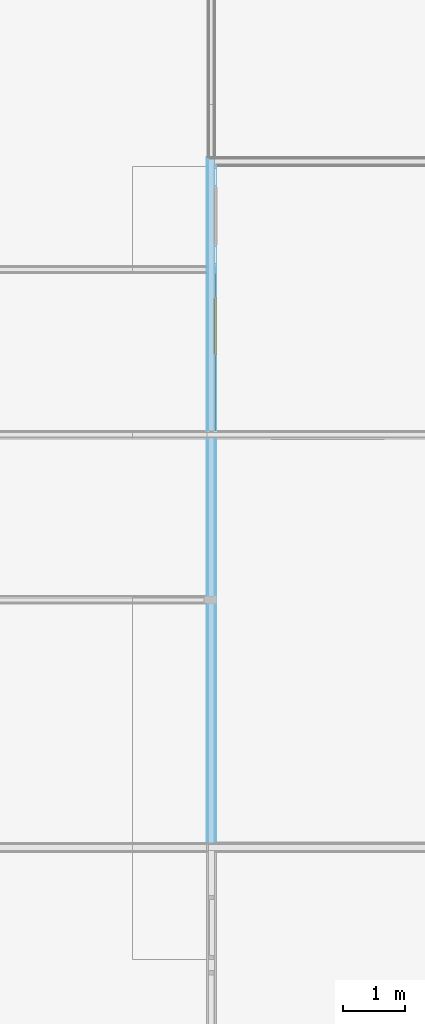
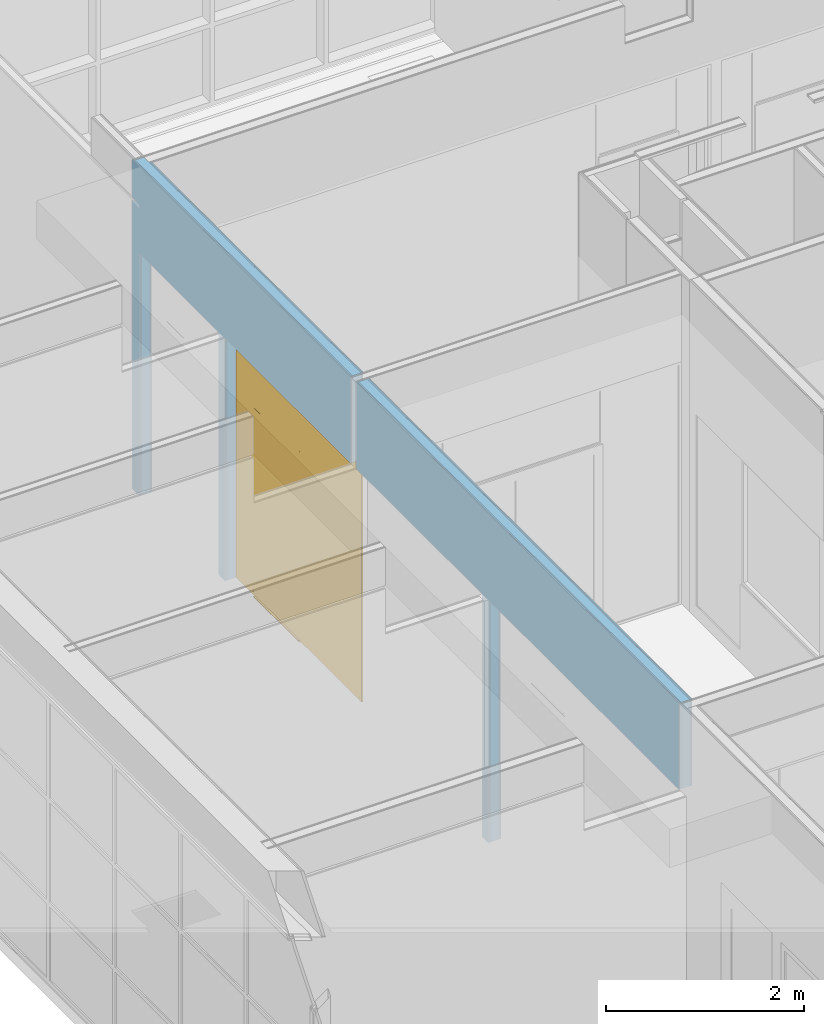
# One storey, part 39 of 109: 1 door, 4 openings, 1 element without a shape of its own, plus 5 elements that do not belong to this part.
"""IFC2X3 building model written with IfcOpenShell, lengths in millimetres."""

import ifcopenshell
import ifcopenshell.guid

model = None  # the IFC model being written
_history = None  # IfcOwnerHistory: only IFC2X3 demands one
_inside = {}  # id of a spatial element -> (the spatial element, [elements in it])
_under = {}  # id of a project, library or spatial element -> (it, [spatial elements below it])
_declared = {}  # id of a project -> (the project, [libraries it declares])
_typed = {}  # id of a type object -> (the type object, [elements of that type])
_made_of = {}  # id of a material, layer set ... -> (it, [elements and type objects made of it])


def new_model(schema):
    """Start an empty IFC model of exactly this schema.

    Asked for "IFC4X3", IfcOpenShell would pick the latest addendum, in which some entities
    have other attributes; the version numbers below select the first issue.
    IFC2X3 requires an IfcOwnerHistory on every rooted entity: one is made here for all.
    """
    global model, _history
    if schema == "IFC4X3":
        model = ifcopenshell.file(schema_version=(4, 3, 0, 0))
    else:
        model = ifcopenshell.file(schema=schema)
    _inside.clear()
    _under.clear()
    _declared.clear()
    _typed.clear()
    _made_of.clear()
    _history = None
    if model.schema == "IFC2X3":
        org = make("IfcOrganization", Name="unknown")
        user = make(
            "IfcPersonAndOrganization",
            ThePerson=make("IfcPerson", FamilyName="unknown"),
            TheOrganization=org,
        )
        app = make(
            "IfcApplication",
            ApplicationDeveloper=org,
            Version="unknown",
            ApplicationFullName="unknown",
            ApplicationIdentifier="unknown",
        )
        _history = make(
            "IfcOwnerHistory",
            OwningUser=user,
            OwningApplication=app,
            ChangeAction="ADDED",
            CreationDate=0,
        )
    return model


def make(cls, **values):
    """One entity of the class cls with the attributes given. An attribute that is None is left unset."""
    return model.create_entity(
        cls, **{name: value for name, value in values.items() if value is not None}
    )


def entity(cls, *values):
    """Any entity or typed value of the class cls, its attributes in the order of the schema. None: left unset."""
    e = model.create_entity(cls)
    for i, value in enumerate(values):
        if value is not None:
            e[i] = value
    return e


def rooted(cls, **values):
    """An entity with a GlobalId (a new one), such as an element, a storey or a relation."""
    return make(cls, GlobalId=ifcopenshell.guid.new(), OwnerHistory=_history, **values)


def si_unit(unit_type, name, prefix=None):
    """IfcSIUnit, for example si_unit("LENGTHUNIT", "METRE", prefix="MILLI")."""
    return make("IfcSIUnit", UnitType=unit_type, Prefix=prefix, Name=name)


def converted_unit(unit_type, name, factor, base, dimensions=None, offset=None):
    """IfcConversionBasedUnit, such as the inch: factor (a typed value) times the base unit."""
    return make(
        "IfcConversionBasedUnit"
        if offset is None
        else "IfcConversionBasedUnitWithOffset",
        ConversionOffset=offset,
        Dimensions=None
        if dimensions is None
        else entity("IfcDimensionalExponents", *dimensions),
        UnitType=unit_type,
        Name=name,
        ConversionFactor=make(
            "IfcMeasureWithUnit", ValueComponent=factor, UnitComponent=base
        ),
    )


def derived_unit(unit_type, elements):
    """IfcDerivedUnit: a product of units, each with its exponent."""
    return make(
        "IfcDerivedUnit",
        Elements=[
            make("IfcDerivedUnitElement", Unit=unit, Exponent=power)
            for unit, power in elements
        ],
        UnitType=unit_type,
    )


def money_unit(currency):
    """IfcMonetaryUnit."""
    return make("IfcMonetaryUnit", Currency=currency)


def assignment(units):
    """IfcUnitAssignment: the units of a project."""
    return None if units is None else make("IfcUnitAssignment", Units=units)


def point(xyz):
    """IfcCartesianPoint."""
    return None if xyz is None else make("IfcCartesianPoint", Coordinates=xyz)


def direction(xyz):
    """IfcDirection."""
    return None if xyz is None else make("IfcDirection", DirectionRatios=xyz)


def frame(location, z_axis=None, x_axis=None):
    """IfcAxis2Placement3D, a coordinate frame: its origin and axes. An axis left out is left unset."""
    return make(
        "IfcAxis2Placement3D",
        Location=point(location),
        Axis=direction(z_axis),
        RefDirection=direction(x_axis),
    )


def origin_with_axes():
    """The frame at (0, 0, 0) with the z axis (0, 0, 1) and the x axis (1, 0, 0) written out."""
    return frame((0.0, 0.0, 0.0), z_axis=(0.0, 0.0, 1.0), x_axis=(1.0, 0.0, 0.0))


def place(relative_to, where):
    """IfcLocalPlacement: puts the frame where relative to a parent placement (None: the world)."""
    return make(
        "IfcLocalPlacement", PlacementRelTo=relative_to, RelativePlacement=where
    )


def context(
    kind, dimensions, precision=None, world=None, true_north=None, identifier=None
):
    """IfcGeometricRepresentationContext, for example the 3D "Model" context."""
    return make(
        "IfcGeometricRepresentationContext",
        ContextIdentifier=identifier,
        ContextType=kind,
        CoordinateSpaceDimension=dimensions,
        Precision=precision,
        WorldCoordinateSystem=world,
        TrueNorth=true_north,
    )


def subcontext(parent, identifier, kind, view, scale=None):
    """IfcGeometricRepresentationSubContext, for example "Body" below "Model"."""
    return make(
        "IfcGeometricRepresentationSubContext",
        ContextIdentifier=identifier,
        ContextType=kind,
        ParentContext=parent,
        TargetScale=scale,
        TargetView=view,
    )


def project(units=None, contexts=None):
    """IfcProject with its units and contexts."""
    return rooted(
        "IfcProject",
        Name="project",
        RepresentationContexts=contexts,
        UnitsInContext=assignment(units),
    )


def spatial(cls, under=None, at=None, **own):
    """A site, building, storey or space (cls), placed at a placement, below another one or the project."""
    s = rooted(cls, ObjectPlacement=at, **own)
    if under is not None:
        _under.setdefault(under.id(), (under, []))[1].append(s)
    return s


def faces_of(points, faces, orient=None, outer=None):
    """IfcFace entities. A face is a list of loops; a loop is a list of indices into points, from 0.

    orient and outer hold one flag for each loop. By default every Orientation is true, the
    first loop of a face is its IfcFaceOuterBound and the others are IfcFaceBound.
    """
    made = []
    for i, loops in enumerate(faces):
        bounds = []
        for j, loop in enumerate(loops):
            is_outer = j == 0 if outer is None else outer[i][j]
            bounds.append(
                make(
                    "IfcFaceOuterBound" if is_outer else "IfcFaceBound",
                    Bound=make("IfcPolyLoop", Polygon=[points[k] for k in loop]),
                    Orientation=True if orient is None else orient[i][j],
                )
            )
        made.append(make("IfcFace", Bounds=bounds))
    return made


def open_shell(faces, orient=None, outer=None):
    """The faces of one IfcOpenShell. surface_model builds it on its shared points."""
    return ("IfcOpenShell", faces, orient, outer)


def faceted_brep(points, faces, orient=None, outer=None, voids=None):
    """IfcFacetedBrep: a solid bounded by flat faces; with voids (closed shells), ...WithVoids."""
    shared = [point(p) for p in points]
    hull = make("IfcClosedShell", CfsFaces=faces_of(shared, faces, orient, outer))
    if voids is None:
        return make("IfcFacetedBrep", Outer=hull)
    return make(
        "IfcFacetedBrepWithVoids",
        Outer=hull,
        Voids=[
            make(cls, CfsFaces=faces_of(shared, fs, o, b)) for cls, fs, o, b in voids
        ],
    )


def surface_model(cls, points, shells):
    """IfcFaceBasedSurfaceModel or IfcShellBasedSurfaceModel (cls): surfaces that need not close."""
    shared = [point(p) for p in points]
    made = [make(c, CfsFaces=faces_of(shared, fs, o, b)) for c, fs, o, b in shells]
    if cls == "IfcFaceBasedSurfaceModel":
        return make(cls, FbsmFaces=made)
    return make(cls, SbsmBoundary=made)


def shape(context_of_items, identifier, shape_type, items):
    """IfcShapeRepresentation: the items that make up one representation, for example the "Body"."""
    return make(
        "IfcShapeRepresentation",
        ContextOfItems=context_of_items,
        RepresentationIdentifier=identifier,
        RepresentationType=shape_type,
        Items=items,
    )


def material(Name=None, Category=None):
    """IfcMaterial."""
    return make("IfcMaterial", Name=Name, Category=Category)


def made_of(thing, what):
    """Note that an element or type object is made of a material, layer set ...; save() writes the relation."""
    if what is not None:
        _made_of.setdefault(what.id(), (what, []))[1].append(thing)
    return thing


def type_object(cls, material=None, **own):
    """A type object (cls), such as IfcWallType, which elements share."""
    return made_of(rooted(cls, **own), material)


def element(
    cls,
    number,
    at=None,
    inside=None,
    cuts=None,
    type_object=None,
    material=None,
    context=None,
    identifier="Body",
    shape_type=None,
    held_by="IfcProductDefinitionShape",
    body=None,
    shapes=None,
    **own,
):
    """One element of the class cls, such as IfcWall. Its Tag is "e" and its number.

    at: its placement. inside: the storey or other place that contains it. cuts: it is an
    opening in that element (IfcRelVoidsElement). A single representation is given by context,
    identifier, shape_type and body (its items); several are given by shapes. held_by: the class
    of the entity that holds the representations. save() writes the other relations.
    """
    e = rooted(cls, Tag="e%d" % number, ObjectPlacement=at, **own)
    if body is not None:
        shapes = [shape(context, identifier, shape_type, body)]
    if shapes is not None:
        e.Representation = make(held_by, Representations=shapes)
    if inside is not None:
        _inside.setdefault(inside.id(), (inside, []))[1].append(e)
    if cuts is not None:
        rooted(
            "IfcRelVoidsElement", RelatingBuildingElement=cuts, RelatedOpeningElement=e
        )
    if type_object is not None:
        _typed.setdefault(type_object.id(), (type_object, []))[1].append(e)
    return made_of(e, material)


def fill(opening, filler):
    """IfcRelFillsElement: the door or window that sits in an opening."""
    return rooted(
        "IfcRelFillsElement",
        RelatingOpeningElement=opening,
        RelatedBuildingElement=filler,
    )


def aggregate(whole, parts):
    """IfcRelAggregates: a whole, such as a stair, and the parts it consists of."""
    return rooted("IfcRelAggregates", RelatingObject=whole, RelatedObjects=parts)


def save(model, path):
    """Write the relations noted so far, then the file.

    IfcRelAggregates (storeys below a building ...), IfcRelContainedInSpatialStructure (elements
    in a storey), IfcRelDefinesByType, IfcRelAssociatesMaterial and IfcRelDeclares: one each for
    every whole, place, type object, material and project.
    """
    for whole, parts in _under.values():
        aggregate(whole, parts)
    for where, things in _inside.values():
        rooted(
            "IfcRelContainedInSpatialStructure",
            RelatedElements=things,
            RelatingStructure=where,
        )
    for kind, things in _typed.values():
        rooted("IfcRelDefinesByType", RelatedObjects=things, RelatingType=kind)
    for what, things in _made_of.values():
        rooted("IfcRelAssociatesMaterial", RelatedObjects=things, RelatingMaterial=what)
    for by, libraries in _declared.values():
        rooted("IfcRelDeclares", RelatingContext=by, RelatedDefinitions=libraries)
    model.write(path)


model = new_model("IFC2X3")

# Units and contexts
model_context = context("Model", 3, precision=0.01, world=origin_with_axes(), true_north=direction((0.0, 1.0)))
body_context = subcontext(model_context, "Body", "Model", "MODEL_VIEW")
ifc_project = project(units=[si_unit("LENGTHUNIT", "METRE", prefix="MILLI"), si_unit("AREAUNIT", "SQUARE_METRE"), si_unit("VOLUMEUNIT", "CUBIC_METRE"), converted_unit("PLANEANGLEUNIT", "DEGREE", entity("IfcPlaneAngleMeasure", 0.0174532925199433), si_unit("PLANEANGLEUNIT", "RADIAN"), dimensions=[0, 0, 0, 0, 0, 0, 0]), money_unit("EUR"), converted_unit("TIMEUNIT", "Year", entity("IfcTimeMeasure", 31557600.0), si_unit("TIMEUNIT", "SECOND"), dimensions=[0, 0, 1, 0, 0, 0, 0]), si_unit("MASSUNIT", "GRAM", prefix="KILO"), si_unit("THERMODYNAMICTEMPERATUREUNIT", "DEGREE_CELSIUS"), si_unit("LUMINOUSINTENSITYUNIT", "LUMEN"), si_unit("ENERGYUNIT", "JOULE", prefix="MEGA"), derived_unit("THERMALCONDUCTANCEUNIT", [(si_unit("POWERUNIT", "WATT"), 1), (si_unit("LENGTHUNIT", "METRE"), -1), (si_unit("THERMODYNAMICTEMPERATUREUNIT", "KELVIN"), -1)]), derived_unit("SPECIFICHEATCAPACITYUNIT", [(si_unit("ENERGYUNIT", "JOULE"), 1), (si_unit("MASSUNIT", "GRAM", prefix="KILO"), -1), (si_unit("THERMODYNAMICTEMPERATUREUNIT", "KELVIN"), -1)]), derived_unit("MASSDENSITYUNIT", [(si_unit("MASSUNIT", "GRAM", prefix="KILO"), 1), (si_unit("VOLUMEUNIT", "CUBIC_METRE"), -1)])], contexts=[model_context])

# Site, building, storey
site_placement = place(None, origin_with_axes())
site = spatial("IfcSite", under=ifc_project, at=site_placement, Name="<site naam>", CompositionType="ELEMENT")
building_placement = place(site_placement, origin_with_axes())
building = spatial("IfcBuilding", under=site, at=building_placement, Name="<Naam gebouw>", CompositionType="ELEMENT")
storey_placement = place(building_placement, origin_with_axes())
storey = spatial("IfcBuildingStorey", under=building, at=storey_placement, Name="00 Begane grond", CompositionType="ELEMENT", Elevation=0.0)

# Door
door_style = type_object("IfcDoorStyle", Name="D1 bl zl2 27", ConstructionType="NOTDEFINED", OperationType="USERDEFINED", ParameterTakesPrecedence=False, Sizeable=False)
wall_placement = place(storey_placement, frame((-3999.999999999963, 8075.000000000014, 0.0), z_axis=(0.0, 0.0, 1.0), x_axis=(0.0, 1.0, 0.0)))
opening_2_placement = place(wall_placement, frame((7925.000000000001, 0.0, 0.0), z_axis=(0.0, 0.0, 1.0), x_axis=(1.0, 0.0, 0.0)))
door_placement = place(opening_2_placement, frame((1270.833333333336, 0.0, 0.0), z_axis=(0.0, 0.0, 1.0), x_axis=(-1.0, 0.0, 0.0)))
door = element("IfcDoor", 1, at=door_placement, inside=storey, type_object=door_style, Name="22_BI-F-02_305", ObjectType="DOOR", OverallHeight=3000.0, OverallWidth=2541.67, context=body_context, shape_type="SurfaceModel", body=[
    faceted_brep([(1317.0, 35.00000000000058, 0.0), (1300.000000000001, 35.00000000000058, 0.0), (1300.000000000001, 35.00000000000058, 12.0), (1317.0, 35.00000000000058, 12.0), (382.9999999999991, 35.00000000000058, 0.0), (399.9999999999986, 35.00000000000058, 0.0), (399.9999999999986, 55.0000000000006, 0.0), (1300.000000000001, 55.0000000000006, 0.0), (1300.000000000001, 55.0000000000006, 12.0), (399.9999999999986, 55.0000000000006, 12.0), (399.9999999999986, 35.00000000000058, 12.0), (382.9999999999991, 35.00000000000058, 12.0)], [[[0, 1, 2, 3]], [[0, 4, 5, 6, 7, 1]], [[1, 7, 8, 2]], [[3, 2, 8, 9, 10, 11]], [[4, 0, 3, 11]], [[5, 4, 11, 10]], [[6, 5, 10, 9]], [[7, 6, 9, 8]]]),
    faceted_brep([(2541.666666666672, 75.00000000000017, 0.0), (2541.666666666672, 55.0000000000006, 0.0), (2508.66666666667, 55.0000000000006, 0.0), (2508.66666666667, 75.00000000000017, 0.0), (2541.666666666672, 75.00000000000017, 2967.0), (2541.666666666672, 55.00000000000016, 2967.0), (2508.66666666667, 55.00000000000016, 2967.0), (2508.66666666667, 55.0000000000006, 33.0), (2508.66666666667, 75.00000000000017, 33.0), (2508.66666666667, 75.00000000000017, 2967.0)], [[[0, 1, 2, 3]], [[4, 5, 1, 0]], [[1, 5, 6, 7, 2]], [[3, 2, 7, 8]], [[0, 3, 8, 9, 4]], [[9, 6, 5, 4]], [[8, 7, 6, 9]]]),
    faceted_brep([(1317.0, 55.0000000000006, 0.0), (1342.0, 55.0000000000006, 0.0), (1342.0, 55.0000000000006, 32.99999999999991), (1342.0, 55.0000000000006, 2967.0), (1300.000000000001, 55.0000000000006, 2967.0), (1300.000000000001, 55.0000000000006, 2333.0), (1300.000000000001, 55.0000000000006, 2317.0), (1317.0, 55.0000000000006, 2317.0), (1317.0, 75.00000000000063, 0.0), (1342.0, 75.00000000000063, 0.0), (1342.0, 75.00000000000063, 32.99999999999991), (1342.0, 75.00000000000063, 2967.0), (1300.000000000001, 75.00000000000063, 2967.0), (1300.000000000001, 75.00000000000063, 2333.0), (1300.000000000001, 75.00000000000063, 2317.0), (1317.0, 75.00000000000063, 2317.0)], [[[0, 1, 2, 3, 4, 5, 6, 7]], [[8, 9, 1, 0]], [[9, 10, 2, 1]], [[10, 11, 3, 2]], [[11, 12, 4, 3]], [[12, 13, 5, 4]], [[6, 5, 13, 14]], [[14, 15, 7, 6]], [[7, 15, 8, 0]], [[15, 14, 13, 12, 11, 10, 9, 8]]]),
    faceted_brep([(2508.66666666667, 75.00000000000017, 33.0), (2508.66666666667, 55.0000000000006, 33.0), (2508.66666666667, 55.0000000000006, 0.0), (2508.66666666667, 75.00000000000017, 0.0), (1342.0, 75.00000000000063, 33.0), (1342.0, 55.0000000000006, 33.0), (1342.0, 55.0000000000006, 0.0), (1342.0, 75.00000000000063, 0.0)], [[[0, 1, 2, 3]], [[4, 5, 1, 0]], [[1, 5, 6, 2]], [[3, 2, 6, 7]], [[0, 3, 7, 4]], [[7, 6, 5, 4]]]),
    faceted_brep([(0.0, 75.00000000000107, 0.0), (0.0, 55.00000000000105, 0.0), (0.0, 55.0000000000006, 2967.0), (0.0, 75.00000000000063, 2967.0), (33.00000000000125, 75.00000000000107, 0.0), (33.00000000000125, 55.00000000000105, 0.0), (33.00000000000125, 55.00000000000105, 33.0), (33.00000000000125, 55.0000000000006, 2967.0), (33.00000000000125, 75.00000000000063, 2967.0), (33.00000000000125, 75.00000000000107, 33.0)], [[[0, 1, 2, 3]], [[4, 5, 1, 0]], [[1, 5, 6, 7, 2]], [[3, 2, 7, 8]], [[0, 3, 8, 9, 4]], [[9, 6, 5, 4]], [[8, 7, 6, 9]]]),
    faceted_brep([(382.9999999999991, 55.0000000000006, 2317.0), (399.9999999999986, 55.0000000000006, 2317.0), (399.9999999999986, 55.0000000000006, 2333.0), (399.9999999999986, 55.0000000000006, 2967.0), (358.0000000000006, 55.0000000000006, 2967.0), (358.0000000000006, 55.0000000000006, 32.99999999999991), (358.0000000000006, 55.0000000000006, 0.0), (382.9999999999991, 55.0000000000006, 0.0), (382.9999999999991, 75.00000000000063, 2317.0), (399.9999999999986, 75.00000000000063, 2317.0), (399.9999999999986, 75.00000000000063, 2333.0), (399.9999999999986, 75.00000000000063, 2967.0), (358.0000000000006, 75.00000000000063, 2967.0), (358.0000000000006, 75.00000000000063, 32.99999999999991), (358.0000000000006, 75.00000000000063, 0.0), (382.9999999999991, 75.00000000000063, 0.0)], [[[0, 1, 2, 3, 4, 5, 6, 7]], [[0, 8, 9, 1]], [[9, 10, 2, 1]], [[10, 11, 3, 2]], [[11, 12, 4, 3]], [[12, 13, 5, 4]], [[13, 14, 6, 5]], [[7, 6, 14, 15]], [[7, 15, 8, 0]], [[8, 15, 14, 13, 12, 11, 10, 9]]]),
    faceted_brep([(358.0000000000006, 75.00000000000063, 33.0), (358.0000000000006, 55.0000000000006, 33.0), (358.0000000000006, 55.0000000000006, 0.0), (358.0000000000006, 75.00000000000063, 0.0), (33.00000000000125, 75.00000000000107, 33.0), (33.00000000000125, 55.00000000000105, 33.0), (33.00000000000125, 55.00000000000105, 0.0), (33.00000000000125, 75.00000000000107, 0.0)], [[[0, 1, 2, 3]], [[4, 5, 1, 0]], [[1, 5, 6, 2]], [[3, 2, 6, 7]], [[0, 3, 7, 4]], [[7, 6, 5, 4]]]),
    faceted_brep([(2541.666666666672, 75.00000000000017, 3000.0), (2541.666666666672, 55.00000000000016, 3000.0), (2541.666666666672, 55.00000000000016, 2967.0), (2541.666666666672, 75.00000000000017, 2967.0), (0.0, 75.00000000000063, 3000.0), (0.0, 55.0000000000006, 3000.0), (0.0, 55.0000000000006, 2967.0), (33.00000000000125, 55.0000000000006, 2967.0), (358.0000000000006, 55.0000000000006, 2967.0), (399.9999999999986, 55.0000000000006, 2967.0), (1300.000000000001, 55.0000000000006, 2967.0), (1342.0, 55.0000000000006, 2967.0), (2508.66666666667, 55.00000000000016, 2967.0), (2508.66666666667, 75.00000000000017, 2967.0), (1342.0, 75.00000000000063, 2967.0), (1300.000000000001, 75.00000000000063, 2967.0), (399.9999999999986, 75.00000000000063, 2967.0), (358.0000000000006, 75.00000000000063, 2967.0), (33.00000000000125, 75.00000000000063, 2967.0), (0.0, 75.00000000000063, 2967.0)], [[[0, 1, 2, 3]], [[4, 5, 1, 0]], [[1, 5, 6, 7, 8, 9, 10, 11, 12, 2]], [[3, 2, 12, 13]], [[0, 3, 13, 14, 15, 16, 17, 18, 19, 4]], [[19, 6, 5, 4]], [[18, 7, 6, 19]], [[17, 8, 7, 18]], [[16, 9, 8, 17]], [[15, 10, 9, 16]], [[14, 11, 10, 15]], [[13, 12, 11, 14]]]),
    faceted_brep([(1300.000000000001, 55.0000000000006, 2317.0), (1300.000000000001, 55.0000000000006, 2333.0), (399.9999999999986, 55.0000000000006, 2333.0), (399.9999999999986, 55.0000000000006, 2317.0), (1300.000000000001, 75.00000000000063, 2317.0), (1300.000000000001, 75.00000000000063, 2333.0), (399.9999999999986, 75.00000000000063, 2333.0), (399.9999999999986, 75.00000000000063, 2317.0)], [[[0, 1, 2, 3]], [[4, 5, 1, 0]], [[5, 6, 2, 1]], [[3, 2, 6, 7]], [[7, 4, 0, 3]], [[7, 6, 5, 4]]]),
    faceted_brep([(382.9999999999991, 93.00000000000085, 0.0), (1317.0, 93.00000000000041, 0.0), (1317.0, 53.00000000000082, 0.0), (382.9999999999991, 53.00000000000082, 0.0), (382.9999999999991, 93.00000000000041, 2317.0), (1317.0, 93.00000000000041, 2317.0), (1317.0, 53.00000000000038, 2317.0), (382.9999999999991, 53.00000000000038, 2317.0)], [[[0, 1, 2, 3]], [[0, 4, 5, 1]], [[1, 5, 6, 2]], [[3, 2, 6, 7]], [[4, 0, 3, 7]], [[5, 4, 7, 6]]]),
    surface_model("IfcShellBasedSurfaceModel", [(1300.000000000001, 49.00000000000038, 2333.0), (1300.000000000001, 49.00000000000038, 2967.0), (399.9999999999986, 49.00000000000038, 2967.0), (399.9999999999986, 49.00000000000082, 2333.0)], [open_shell([[[0, 1, 2, 3]]])]),
    surface_model("IfcShellBasedSurfaceModel", [(1300.000000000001, 61.00000000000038, 2333.0), (399.9999999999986, 61.00000000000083, 2333.0), (399.9999999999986, 61.00000000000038, 2967.0), (1300.000000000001, 61.00000000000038, 2967.0)], [open_shell([[[0, 1, 2, 3]]])]),
    surface_model("IfcShellBasedSurfaceModel", [(2508.66666666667, 49.00000000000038, 33.0), (2508.66666666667, 49.00000000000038, 2967.0), (1342.0, 49.00000000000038, 2967.0), (1342.0, 49.00000000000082, 33.0)], [open_shell([[[0, 1, 2, 3]]])]),
    surface_model("IfcShellBasedSurfaceModel", [(2508.66666666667, 61.00000000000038, 33.0), (1342.0, 61.00000000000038, 33.0), (1342.0, 61.00000000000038, 2967.0), (2508.66666666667, 61.00000000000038, 2967.0)], [open_shell([[[0, 1, 2, 3]]])]),
    surface_model("IfcShellBasedSurfaceModel", [(358.0000000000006, 49.00000000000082, 33.0), (358.0000000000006, 49.00000000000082, 2967.0), (33.00000000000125, 49.00000000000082, 2967.0), (33.00000000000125, 49.00000000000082, 33.0)], [open_shell([[[0, 1, 2, 3]]])]),
    surface_model("IfcShellBasedSurfaceModel", [(358.0000000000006, 61.00000000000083, 33.0), (33.00000000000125, 61.00000000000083, 33.0), (33.00000000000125, 61.00000000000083, 2967.0), (358.0000000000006, 61.00000000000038, 2967.0)], [open_shell([[[0, 1, 2, 3]]])]),
])

# Wall, openings
wall_type = type_object("IfcWallType", Name="MS-01 GF 150 ECO DGS/2.100.2.A 150", PredefinedType="NOTDEFINED")
wall = element("IfcWall", 2, at=wall_placement, inside=storey, type_object=wall_type, Name="22_Binnenwand_MS-01")
opening_1_placement = place(wall_placement, frame((5258.333333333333, 0.0, 0.0), z_axis=(0.0, 0.0, 1.0), x_axis=(1.0, 0.0, 0.0)))
element("IfcOpeningElement", 3, at=opening_1_placement, cuts=wall, Name="22_BI-F-02 sp_305", context=body_context, shape_type="Brep", body=[
    faceted_brep([(1270.833333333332, 76.00000000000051, 3000.0), (1270.833333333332, 76.00000000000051, 0.0), (-1270.833333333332, 76.00000000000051, 0.0), (-1270.833333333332, 76.00000000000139, 3000.0), (1270.833333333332, -76.00000000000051, 3000.0), (1270.833333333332, -76.00000000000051, 0.0), (-1270.833333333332, -76.00000000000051, 0.0), (-1270.833333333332, -75.99999999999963, 3000.0)], [[[0, 1, 2, 3]], [[4, 5, 1, 0]], [[5, 6, 2, 1]], [[6, 7, 3, 2]], [[7, 4, 0, 3]], [[6, 5, 4, 7]]]),
])
opening_2 = element("IfcOpeningElement", 4, at=opening_2_placement, cuts=wall, Name="22_BI-F-02_305", context=body_context, shape_type="Brep", body=[
    faceted_brep([(1270.833333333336, 76.00000000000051, 3000.0), (1270.833333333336, 76.00000000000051, 0.0), (-1270.833333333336, 76.00000000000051, 0.0), (-1270.833333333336, 76.00000000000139, 3000.0), (1270.833333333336, -76.00000000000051, 3000.0), (1270.833333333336, -76.00000000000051, 0.0), (-1270.833333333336, -76.00000000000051, 0.0), (-1270.833333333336, -75.99999999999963, 3000.0)], [[[0, 1, 2, 3]], [[4, 5, 1, 0]], [[5, 6, 2, 1]], [[6, 7, 3, 2]], [[7, 4, 0, 3]], [[6, 5, 4, 7]]]),
])

fill(opening_2, door)

# Opening
opening_3_placement = place(wall_placement, frame((1931.25, 0.0, 0.0), z_axis=(0.0, 0.0, 1.0), x_axis=(1.0, 0.0, 0.0)))
element("IfcOpeningElement", 5, at=opening_3_placement, cuts=wall, Name="22_BI-F-01_305", context=body_context, shape_type="Brep", body=[
    faceted_brep([(1931.25, 76.00000000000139, 3000.0), (1931.25, 76.00000000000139, 0.0), (-1931.25, 76.00000000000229, 0.0), (-1931.25, 76.00000000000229, 3000.0), (1931.25, -76.00000000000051, 3000.0), (1931.25, -76.00000000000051, 0.0), (-1931.25, -75.99999999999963, 0.0), (-1931.25, -75.99999999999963, 3000.0)], [[[0, 1, 2, 3]], [[4, 5, 1, 0]], [[5, 6, 2, 1]], [[6, 7, 3, 2]], [[7, 4, 0, 3]], [[6, 5, 4, 7]]]),
])

opening_4_placement = place(wall_placement, frame((10122.91666666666, 0.0, 0.0), z_axis=(0.0, 0.0, 1.0), x_axis=(1.0, 0.0, 0.0)))
element("IfcOpeningElement", 6, at=opening_4_placement, cuts=wall, Name="22_BI-F-03_305", context=body_context, shape_type="Brep", body=[
    faceted_brep([(802.0833333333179, 76.00000000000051, 3000.0), (802.0833333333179, 76.00000000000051, 0.0), (-802.0833333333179, 76.00000000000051, 0.0), (-802.0833333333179, 76.00000000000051, 3000.0), (802.0833333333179, -76.00000000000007, 3000.0), (802.0833333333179, -76.00000000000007, 0.0), (-802.0833333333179, -76.00000000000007, 0.0), (-802.0833333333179, -76.00000000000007, 3000.0)], [[[0, 1, 2, 3]], [[4, 5, 1, 0]], [[5, 6, 2, 1]], [[6, 7, 3, 2]], [[7, 4, 0, 3]], [[6, 5, 4, 7]]]),
])

# Building element part
ifc_material_1 = material(Name="gipsplaat")
building_element_part_1_placement = place(wall_placement, origin_with_axes())
building_element_part_1 = element("IfcBuildingElementPart", 7, at=building_element_part_1_placement, material=ifc_material_1, Name="gipsplaat", context=body_context, shape_type="Brep", body=[
    faceted_brep([(11062.49999999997, 49.99999999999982, 3560.0), (10925.0000001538, 49.99999999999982, 3560.0), (10925.0000001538, 49.99999999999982, 3600.0), (11062.49999999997, 49.99999999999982, 3600.0), (11062.49999999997, 49.99999999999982, 4070.0), (6654.166666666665, 49.99999999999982, 4070.0), (6654.166666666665, 49.99999999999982, 3.000000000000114), (9195.833333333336, 49.99999999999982, 3.000000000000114), (9195.833333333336, 49.99999999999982, 0.0), (9320.833333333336, 49.99999999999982, 0.0), (9320.833333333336, 49.99999999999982, 3.000000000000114), (10925.00004530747, 49.99999999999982, 3.000000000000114), (10925.00004530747, 49.99999999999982, 0.0), (11062.49999999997, 49.99999999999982, 0.0), (10925.00000013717, 62.5, 3560.0), (11062.49999999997, 62.5, 3560.0), (10925.00000013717, 62.5, 3600.0), (11062.49999999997, 62.5, 3600.0), (11062.49999999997, 62.5, 4070.0), (6654.166666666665, 62.5, 4070.0), (6654.166666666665, 62.5, 3.000000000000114), (9195.833333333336, 62.5, 3.000000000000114), (9195.833333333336, 62.5, 0.0), (9320.833333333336, 62.5, 0.0), (9320.833333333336, 62.5, 3.000000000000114), (10925.00004530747, 62.5, 3.000000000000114), (10925.00004530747, 62.5, 0.0), (11062.49999999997, 62.5, 0.0)], [[[0, 1, 2, 3, 4, 5, 6, 7, 8, 9, 10, 11, 12, 13]], [[14, 1, 0, 15]], [[16, 2, 1, 14]], [[16, 17, 3, 2]], [[4, 3, 17, 18]], [[5, 4, 18, 19]], [[19, 20, 6, 5]], [[21, 7, 6, 20]], [[22, 8, 7, 21]], [[22, 23, 9, 8]], [[24, 10, 9, 23]], [[25, 11, 10, 24]], [[26, 12, 11, 25]], [[13, 12, 26, 27]], [[27, 15, 0, 13]], [[16, 14, 15, 27, 26, 25, 24, 23, 22, 21, 20, 19, 18, 17]]]),
    faceted_brep([(0.0, 49.99999999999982, 3.000000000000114), (3862.500000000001, 49.99999999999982, 3.000000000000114), (3862.500000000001, 49.99999999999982, 0.0), (3987.500000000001, 49.99999999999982, 0.0), (3987.500000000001, 49.99999999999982, 3.000000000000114), (6529.166666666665, 49.99999999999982, 3.000000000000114), (6529.166666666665, 49.99999999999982, 4070.0), (0.0, 49.99999999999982, 4070.0), (3862.500000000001, 62.5, 3.000000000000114), (0.0, 62.5, 3.000000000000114), (3862.500000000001, 62.5, 0.0), (3987.500000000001, 62.5, 0.0), (3987.500000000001, 62.5, 3.000000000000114), (6529.166666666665, 62.5, 3.000000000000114), (6529.166666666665, 62.5, 4070.0), (0.0, 62.5, 4070.0)], [[[0, 1, 2, 3, 4, 5, 6, 7]], [[8, 1, 0, 9]], [[10, 2, 1, 8]], [[3, 2, 10, 11]], [[12, 4, 3, 11]], [[12, 13, 5, 4]], [[6, 5, 13, 14]], [[7, 6, 14, 15]], [[15, 9, 0, 7]], [[10, 8, 9, 15, 14, 13, 12, 11]]]),
])

building_element_part_2_placement = place(wall_placement, origin_with_axes())
building_element_part_2 = element("IfcBuildingElementPart", 8, at=building_element_part_2_placement, material=ifc_material_1, Name="gipsplaat", context=body_context, shape_type="Brep", body=[
    faceted_brep([(10949.99999999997, -62.5, 3560.0), (10925.00000030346, -62.5, 3560.0), (10925.00000030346, -62.5, 3600.0), (10949.99999999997, -62.5, 3600.0), (10949.99999999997, -62.5, 4070.0), (6654.166666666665, -62.5, 4070.0), (6654.166666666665, -62.5, 3.000000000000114), (9195.833333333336, -62.5, 3.000000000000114), (9195.833333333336, -62.5, 0.0), (9320.833333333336, -62.5, 0.0), (9320.833333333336, -62.5, 3.000000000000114), (10925.00004530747, -62.5, 3.000000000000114), (10925.00004530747, -62.5, 0.0), (10949.99999999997, -62.5, 0.0), (10925.00000028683, -49.99999999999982, 3560.0), (10949.99999999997, -49.99999999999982, 3560.0), (10925.00000028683, -49.99999999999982, 3600.0), (10949.99999999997, -49.99999999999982, 3600.0), (10949.99999999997, -49.99999999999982, 4070.0), (6654.166666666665, -49.99999999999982, 4070.0), (6654.166666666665, -49.99999999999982, 3.000000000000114), (9195.833333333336, -49.99999999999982, 3.000000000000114), (9195.833333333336, -49.99999999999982, 0.0), (9320.833333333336, -49.99999999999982, 0.0), (9320.833333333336, -49.99999999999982, 3.000000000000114), (10925.00004530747, -49.99999999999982, 3.000000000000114), (10925.00004530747, -49.99999999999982, 0.0), (10949.99999999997, -49.99999999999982, 0.0)], [[[0, 1, 2, 3, 4, 5, 6, 7, 8, 9, 10, 11, 12, 13]], [[14, 1, 0, 15]], [[16, 2, 1, 14]], [[16, 17, 3, 2]], [[4, 3, 17, 18]], [[5, 4, 18, 19]], [[19, 20, 6, 5]], [[21, 7, 6, 20]], [[22, 8, 7, 21]], [[22, 23, 9, 8]], [[24, 10, 9, 23]], [[25, 11, 10, 24]], [[26, 12, 11, 25]], [[13, 12, 26, 27]], [[27, 15, 0, 13]], [[16, 14, 15, 27, 26, 25, 24, 23, 22, 21, 20, 19, 18, 17]]]),
    faceted_brep([(0.0, -62.5, 3.000000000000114), (3862.500000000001, -62.5, 3.000000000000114), (3862.500000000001, -62.5, 0.0), (3987.500000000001, -62.5, 0.0), (3987.500000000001, -62.5, 3.000000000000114), (6529.166666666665, -62.5, 3.000000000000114), (6529.166666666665, -62.5, 4070.0), (0.0, -62.5, 4070.0), (3862.500000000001, -49.99999999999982, 3.000000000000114), (0.0, -49.99999999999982, 3.000000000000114), (3862.500000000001, -49.99999999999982, 0.0), (3987.500000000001, -49.99999999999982, 0.0), (3987.500000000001, -49.99999999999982, 3.000000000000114), (6529.166666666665, -49.99999999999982, 3.000000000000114), (6529.166666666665, -49.99999999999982, 4070.0), (0.0, -49.99999999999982, 4070.0)], [[[0, 1, 2, 3, 4, 5, 6, 7]], [[8, 1, 0, 9]], [[10, 2, 1, 8]], [[3, 2, 10, 11]], [[12, 4, 3, 11]], [[12, 13, 5, 4]], [[6, 5, 13, 14]], [[7, 6, 14, 15]], [[15, 9, 0, 7]], [[10, 8, 9, 15, 14, 13, 12, 11]]]),
])

ifc_material_2 = material(Name="isolatie_steenwol LSW")
building_element_part_3_placement = place(wall_placement, origin_with_axes())
building_element_part_3 = element("IfcBuildingElementPart", 9, at=building_element_part_3_placement, material=ifc_material_2, Name="isolatie_steenwol LSW", context=body_context, shape_type="Brep", body=[
    faceted_brep([(11049.99999999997, -49.99999999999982, 3560.0), (10925.00000028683, -49.99999999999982, 3560.0), (10925.00000028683, -49.99999999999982, 3600.0), (11049.99999999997, -49.99999999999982, 3600.0), (11049.99999999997, -49.99999999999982, 4070.0), (6654.166666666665, -49.99999999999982, 4070.0), (6654.166666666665, -49.99999999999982, 3.000000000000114), (9195.833333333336, -49.99999999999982, 3.000000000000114), (9195.833333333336, -49.99999999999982, 0.0), (9320.833333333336, -49.99999999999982, 0.0), (9320.833333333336, -49.99999999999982, 3.000000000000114), (10925.00004530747, -49.99999999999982, 3.000000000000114), (10925.00004530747, -49.99999999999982, 0.0), (11049.99999999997, -49.99999999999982, 0.0), (10925.0000001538, 49.99999999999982, 3560.0), (11049.99999999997, 49.99999999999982, 3560.0), (10925.0000001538, 49.99999999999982, 3600.0), (11049.99999999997, 49.99999999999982, 3600.0), (11049.99999999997, 49.99999999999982, 4070.0), (6654.166666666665, 49.99999999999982, 4070.0), (6654.166666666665, 49.99999999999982, 3.000000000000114), (9195.833333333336, 49.99999999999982, 3.000000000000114), (9195.833333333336, 49.99999999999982, 0.0), (9320.833333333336, 49.99999999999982, 0.0), (9320.833333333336, 49.99999999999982, 3.000000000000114), (10925.00004530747, 49.99999999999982, 3.000000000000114), (10925.00004530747, 49.99999999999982, 0.0), (11049.99999999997, 49.99999999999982, 0.0)], [[[0, 1, 2, 3, 4, 5, 6, 7, 8, 9, 10, 11, 12, 13]], [[14, 1, 0, 15]], [[16, 2, 1, 14]], [[16, 17, 3, 2]], [[4, 3, 17, 18]], [[5, 4, 18, 19]], [[19, 20, 6, 5]], [[21, 7, 6, 20]], [[22, 8, 7, 21]], [[22, 23, 9, 8]], [[24, 10, 9, 23]], [[25, 11, 10, 24]], [[26, 12, 11, 25]], [[13, 12, 26, 27]], [[27, 15, 0, 13]], [[16, 14, 15, 27, 26, 25, 24, 23, 22, 21, 20, 19, 18, 17]]]),
    faceted_brep([(0.0, -49.99999999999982, 3.000000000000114), (3862.500000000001, -49.99999999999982, 3.000000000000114), (3862.500000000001, -49.99999999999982, 0.0), (3987.500000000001, -49.99999999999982, 0.0), (3987.500000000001, -49.99999999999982, 3.000000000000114), (6529.166666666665, -49.99999999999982, 3.000000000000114), (6529.166666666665, -49.99999999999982, 4070.0), (0.0, -49.99999999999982, 4070.0), (3862.500000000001, 49.99999999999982, 3.000000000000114), (0.0, 49.99999999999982, 3.000000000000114), (3862.500000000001, 49.99999999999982, 0.0), (3987.500000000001, 49.99999999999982, 0.0), (3987.500000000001, 49.99999999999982, 3.000000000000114), (6529.166666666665, 49.99999999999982, 3.000000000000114), (6529.166666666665, 49.99999999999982, 4070.0), (0.0, 49.99999999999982, 4070.0)], [[[0, 1, 2, 3, 4, 5, 6, 7]], [[8, 1, 0, 9]], [[10, 2, 1, 8]], [[3, 2, 10, 11]], [[12, 4, 3, 11]], [[12, 13, 5, 4]], [[6, 5, 13, 14]], [[7, 6, 14, 15]], [[15, 9, 0, 7]], [[10, 8, 9, 15, 14, 13, 12, 11]]]),
])

building_element_part_4_placement = place(wall_placement, origin_with_axes())
building_element_part_4 = element("IfcBuildingElementPart", 10, at=building_element_part_4_placement, material=ifc_material_1, Name="gipsplaat", context=body_context, shape_type="Brep", body=[
    faceted_brep([(10937.49999999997, -75.00000000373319, 3560.0), (10925.00000032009, -75.00000002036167, 3560.0), (10925.00000032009, -75.00000002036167, 3600.0), (10937.49999999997, -75.00000000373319, 3600.0), (10937.49999999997, -74.99999999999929, 4070.0), (6654.166666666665, -74.99999999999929, 4070.0), (6654.166666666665, -74.99999999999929, 3.000000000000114), (9195.833333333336, -74.99999999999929, 3.000000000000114), (9195.833333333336, -74.99999999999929, 0.0), (9320.833333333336, -75.00000535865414, 0.0), (9320.833333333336, -75.00000535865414, 3.000000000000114), (10925.00004530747, -75.00000535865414, 3.000000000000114), (10925.00004530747, -75.00000535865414, 0.0), (10925.01546946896, -75.00000000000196, 0.0), (10925.01546946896, -74.99999999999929, 3.000000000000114), (10937.49999999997, -75.00000000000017, 3.000000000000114), (10925.00000030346, -62.5, 3560.0), (10937.49999999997, -62.5, 3560.0), (10925.00000030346, -62.5, 3600.0), (10937.49999999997, -62.5, 3600.0), (10937.49999999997, -62.5, 4070.0), (6654.166666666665, -62.5, 4070.0), (6654.166666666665, -62.5, 3.000000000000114), (9195.833333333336, -62.5, 3.000000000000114), (9195.833333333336, -62.5, 0.0), (9320.833333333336, -62.50000000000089, 0.0), (9320.833333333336, -62.5, 3.000000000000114), (10925.00004530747, -62.5, 3.000000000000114), (10925.00004530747, -62.50000000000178, 0.0), (10925.01549908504, -62.50000000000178, 0.0), (10925.01549908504, -62.50000000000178, 3.000000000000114), (10937.49999999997, -62.50000000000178, 3.000000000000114)], [[[0, 1, 2, 3, 4, 5, 6, 7, 8, 9, 10, 11, 12, 13, 14, 15]], [[16, 1, 0, 17]], [[18, 2, 1, 16]], [[18, 19, 3, 2]], [[4, 3, 19, 20]], [[5, 4, 20, 21]], [[21, 22, 6, 5]], [[23, 7, 6, 22]], [[24, 8, 7, 23]], [[24, 25, 9, 8]], [[26, 10, 9, 25]], [[27, 11, 10, 26]], [[28, 12, 11, 27]], [[13, 12, 28, 29]], [[30, 14, 13, 29]], [[30, 31, 15, 14]], [[31, 17, 0, 15]], [[18, 16, 17, 31, 30, 29, 28, 27, 26, 25, 24, 23, 22, 21, 20, 19]]]),
    faceted_brep([(0.0, -74.99999999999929, 3.000000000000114), (3862.500000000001, -74.99999999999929, 3.000000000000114), (3862.500000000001, -74.99999999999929, 0.0), (3987.500000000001, -74.99999999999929, 0.0), (3987.500000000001, -74.99999999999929, 3.000000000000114), (6529.166666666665, -74.99999999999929, 3.000000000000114), (6529.166666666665, -74.99999999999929, 4070.0), (0.0, -74.99999999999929, 4070.0), (3862.500000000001, -62.5, 3.000000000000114), (0.0, -62.5, 3.000000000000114), (3862.500000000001, -62.5, 0.0), (3987.500000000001, -62.5, 0.0), (3987.500000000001, -62.5, 3.000000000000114), (6529.166666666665, -62.5, 3.000000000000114), (6529.166666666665, -62.5, 4070.0), (0.0, -62.5, 4070.0)], [[[0, 1, 2, 3, 4, 5, 6, 7]], [[8, 1, 0, 9]], [[10, 2, 1, 8]], [[3, 2, 10, 11]], [[12, 4, 3, 11]], [[12, 13, 5, 4]], [[6, 5, 13, 14]], [[7, 6, 14, 15]], [[15, 9, 0, 7]], [[10, 8, 9, 15, 14, 13, 12, 11]]]),
])

building_element_part_5_placement = place(wall_placement, origin_with_axes())
building_element_part_5 = element("IfcBuildingElementPart", 11, at=building_element_part_5_placement, material=ifc_material_1, Name="gipsplaat", context=body_context, shape_type="Brep", body=[
    faceted_brep([(11074.99999999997, 62.5, 3560.0), (10925.00000013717, 62.5, 3560.0), (10925.00000013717, 62.5, 3600.0), (11074.99999999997, 62.5, 3600.0), (11074.99999999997, 62.5, 4070.0), (6654.166666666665, 62.5, 4070.0), (6654.166666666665, 62.5, 3.000000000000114), (9195.833333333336, 62.5, 3.000000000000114), (9195.833333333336, 62.5, 0.0), (9320.833333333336, 62.5, 0.0), (9320.833333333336, 62.5, 3.000000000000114), (10925.00004530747, 62.5, 3.000000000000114), (10925.00004530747, 62.5, 0.0), (11074.99999999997, 62.5, 0.0), (10925.00000012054, 75.00000000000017, 3560.0), (11074.99999999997, 75.00000000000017, 3560.0), (10925.00000012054, 75.00000000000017, 3600.0), (11074.99999999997, 75.00000000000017, 3600.0), (11074.99999999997, 75.00000000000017, 4070.0), (6654.166666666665, 75.00000000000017, 4070.0), (6654.166666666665, 75.00000000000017, 3.000000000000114), (9195.833333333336, 75.00000000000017, 3.000000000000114), (9195.833333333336, 75.00000000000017, 0.0), (9320.833333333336, 75.00000000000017, 0.0), (9320.833333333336, 75.00000000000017, 3.000000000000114), (10925.00004530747, 75.00000000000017, 3.000000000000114), (10925.00004530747, 75.00000000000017, 0.0), (11074.99999999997, 75.00000000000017, 0.0)], [[[0, 1, 2, 3, 4, 5, 6, 7, 8, 9, 10, 11, 12, 13]], [[14, 1, 0, 15]], [[16, 2, 1, 14]], [[16, 17, 3, 2]], [[4, 3, 17, 18]], [[19, 5, 4, 18]], [[19, 20, 6, 5]], [[21, 7, 6, 20]], [[22, 8, 7, 21]], [[22, 23, 9, 8]], [[24, 10, 9, 23]], [[25, 11, 10, 24]], [[26, 12, 11, 25]], [[13, 12, 26, 27]], [[27, 15, 0, 13]], [[16, 14, 15, 27, 26, 25, 24, 23, 22, 21, 20, 19, 18, 17]]]),
    faceted_brep([(0.0, 62.5, 3.000000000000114), (3862.500000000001, 62.5, 3.000000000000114), (3862.500000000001, 62.5, 0.0), (3987.500000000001, 62.5, 0.0), (3987.500000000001, 62.5, 3.000000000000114), (6529.166666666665, 62.5, 3.000000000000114), (6529.166666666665, 62.5, 4070.0), (0.0, 62.5, 4070.0), (3862.500000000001, 75.00000000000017, 3.000000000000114), (0.0, 75.00000000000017, 3.000000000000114), (3862.500000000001, 75.00000000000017, 0.0), (3987.500000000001, 75.00000000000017, 0.0), (3987.500000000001, 75.00000000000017, 3.000000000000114), (6529.166666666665, 75.00000000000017, 3.000000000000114), (6529.166666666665, 75.00000000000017, 4070.0), (0.0, 75.00000000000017, 4070.0)], [[[0, 1, 2, 3, 4, 5, 6, 7]], [[8, 1, 0, 9]], [[10, 2, 1, 8]], [[3, 2, 10, 11]], [[12, 4, 3, 11]], [[12, 13, 5, 4]], [[6, 5, 13, 14]], [[7, 6, 14, 15]], [[15, 9, 0, 7]], [[10, 8, 9, 15, 14, 13, 12, 11]]]),
])

aggregate(wall, [building_element_part_1, building_element_part_2, building_element_part_3, building_element_part_4, building_element_part_5])

save(model, "model.ifc")
